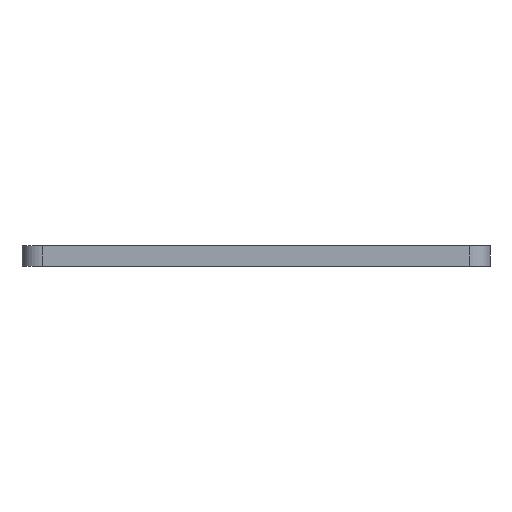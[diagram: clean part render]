
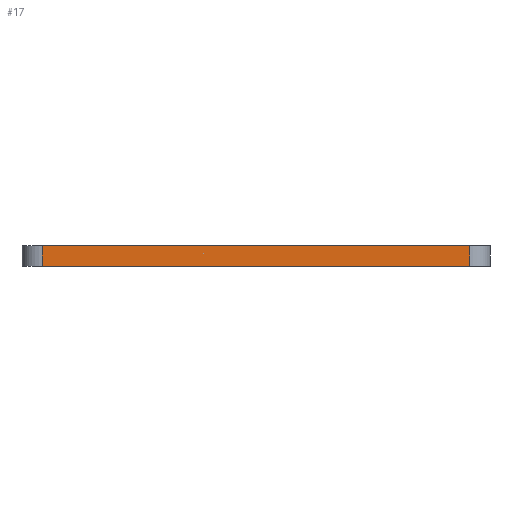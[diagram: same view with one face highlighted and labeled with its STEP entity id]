
A CAD part, front view. The second image highlights one B-rep face of the part: STEP entity #17.
In plain terms, the highlighted planar face has unit normal (0, -1, 0).
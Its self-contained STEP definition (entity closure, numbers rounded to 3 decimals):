
#17 = ADVANCED_FACE('',(#18),#32,.F.);
#18 = FACE_BOUND('',#19,.F.);
#19 = EDGE_LOOP('',(#20,#55,#83,#111));
#20 = ORIENTED_EDGE('',*,*,#21,.T.);
#21 = EDGE_CURVE('',#22,#24,#26,.T.);
#22 = VERTEX_POINT('',#23);
#23 = CARTESIAN_POINT('',(9.,34.,5.5));
#24 = VERTEX_POINT('',#25);
#25 = CARTESIAN_POINT('',(9.,34.,7.5));
#26 = SURFACE_CURVE('',#27,(#31,#43),.PCURVE_S1.);
#27 = LINE('',#28,#29);
#28 = CARTESIAN_POINT('',(9.,34.,5.5));
#29 = VECTOR('',#30,1.);
#30 = DIRECTION('',(0.,0.,1.));
#31 = PCURVE('',#32,#37);
#32 = PLANE('',#33);
#33 = AXIS2_PLACEMENT_3D('',#34,#35,#36);
#34 = CARTESIAN_POINT('',(9.,34.,5.5));
#35 = DIRECTION('',(0.,1.,0.));
#36 = DIRECTION('',(1.,0.,0.));
#37 = DEFINITIONAL_REPRESENTATION('',(#38),#42);
#38 = LINE('',#39,#40);
#39 = CARTESIAN_POINT('',(0.,0.));
#40 = VECTOR('',#41,1.);
#41 = DIRECTION('',(0.,-1.));
#42 = ( GEOMETRIC_REPRESENTATION_CONTEXT(2) 
PARAMETRIC_REPRESENTATION_CONTEXT() REPRESENTATION_CONTEXT('2D SPACE',''
  ) );
#43 = PCURVE('',#44,#49);
#44 = CYLINDRICAL_SURFACE('',#45,2.);
#45 = AXIS2_PLACEMENT_3D('',#46,#47,#48);
#46 = CARTESIAN_POINT('',(9.,36.,5.5));
#47 = DIRECTION('',(-0.,-0.,-1.));
#48 = DIRECTION('',(-1.,0.,0.));
#49 = DEFINITIONAL_REPRESENTATION('',(#50),#54);
#50 = LINE('',#51,#52);
#51 = CARTESIAN_POINT('',(-1.571,0.));
#52 = VECTOR('',#53,1.);
#53 = DIRECTION('',(-0.,-1.));
#54 = ( GEOMETRIC_REPRESENTATION_CONTEXT(2) 
PARAMETRIC_REPRESENTATION_CONTEXT() REPRESENTATION_CONTEXT('2D SPACE',''
  ) );
#55 = ORIENTED_EDGE('',*,*,#56,.T.);
#56 = EDGE_CURVE('',#24,#57,#59,.T.);
#57 = VERTEX_POINT('',#58);
#58 = CARTESIAN_POINT('',(51.,34.,7.5));
#59 = SURFACE_CURVE('',#60,(#64,#71),.PCURVE_S1.);
#60 = LINE('',#61,#62);
#61 = CARTESIAN_POINT('',(9.,34.,7.5));
#62 = VECTOR('',#63,1.);
#63 = DIRECTION('',(1.,0.,0.));
#64 = PCURVE('',#32,#65);
#65 = DEFINITIONAL_REPRESENTATION('',(#66),#70);
#66 = LINE('',#67,#68);
#67 = CARTESIAN_POINT('',(0.,-2.));
#68 = VECTOR('',#69,1.);
#69 = DIRECTION('',(1.,0.));
#70 = ( GEOMETRIC_REPRESENTATION_CONTEXT(2) 
PARAMETRIC_REPRESENTATION_CONTEXT() REPRESENTATION_CONTEXT('2D SPACE',''
  ) );
#71 = PCURVE('',#72,#77);
#72 = PLANE('',#73);
#73 = AXIS2_PLACEMENT_3D('',#74,#75,#76);
#74 = CARTESIAN_POINT('',(30.,62.,7.5));
#75 = DIRECTION('',(0.,0.,1.));
#76 = DIRECTION('',(1.,0.,-0.));
#77 = DEFINITIONAL_REPRESENTATION('',(#78),#82);
#78 = LINE('',#79,#80);
#79 = CARTESIAN_POINT('',(-21.,-28.));
#80 = VECTOR('',#81,1.);
#81 = DIRECTION('',(1.,0.));
#82 = ( GEOMETRIC_REPRESENTATION_CONTEXT(2) 
PARAMETRIC_REPRESENTATION_CONTEXT() REPRESENTATION_CONTEXT('2D SPACE',''
  ) );
#83 = ORIENTED_EDGE('',*,*,#84,.F.);
#84 = EDGE_CURVE('',#85,#57,#87,.T.);
#85 = VERTEX_POINT('',#86);
#86 = CARTESIAN_POINT('',(51.,34.,5.5));
#87 = SURFACE_CURVE('',#88,(#92,#99),.PCURVE_S1.);
#88 = LINE('',#89,#90);
#89 = CARTESIAN_POINT('',(51.,34.,5.5));
#90 = VECTOR('',#91,1.);
#91 = DIRECTION('',(0.,0.,1.));
#92 = PCURVE('',#32,#93);
#93 = DEFINITIONAL_REPRESENTATION('',(#94),#98);
#94 = LINE('',#95,#96);
#95 = CARTESIAN_POINT('',(42.,0.));
#96 = VECTOR('',#97,1.);
#97 = DIRECTION('',(0.,-1.));
#98 = ( GEOMETRIC_REPRESENTATION_CONTEXT(2) 
PARAMETRIC_REPRESENTATION_CONTEXT() REPRESENTATION_CONTEXT('2D SPACE',''
  ) );
#99 = PCURVE('',#100,#105);
#100 = CYLINDRICAL_SURFACE('',#101,2.);
#101 = AXIS2_PLACEMENT_3D('',#102,#103,#104);
#102 = CARTESIAN_POINT('',(51.,36.,5.5));
#103 = DIRECTION('',(-0.,-0.,-1.));
#104 = DIRECTION('',(0.,-1.,0.));
#105 = DEFINITIONAL_REPRESENTATION('',(#106),#110);
#106 = LINE('',#107,#108);
#107 = CARTESIAN_POINT('',(-0.,0.));
#108 = VECTOR('',#109,1.);
#109 = DIRECTION('',(-0.,-1.));
#110 = ( GEOMETRIC_REPRESENTATION_CONTEXT(2) 
PARAMETRIC_REPRESENTATION_CONTEXT() REPRESENTATION_CONTEXT('2D SPACE',''
  ) );
#111 = ORIENTED_EDGE('',*,*,#112,.F.);
#112 = EDGE_CURVE('',#22,#85,#113,.T.);
#113 = SURFACE_CURVE('',#114,(#118,#125),.PCURVE_S1.);
#114 = LINE('',#115,#116);
#115 = CARTESIAN_POINT('',(9.,34.,5.5));
#116 = VECTOR('',#117,1.);
#117 = DIRECTION('',(1.,0.,0.));
#118 = PCURVE('',#32,#119);
#119 = DEFINITIONAL_REPRESENTATION('',(#120),#124);
#120 = LINE('',#121,#122);
#121 = CARTESIAN_POINT('',(0.,0.));
#122 = VECTOR('',#123,1.);
#123 = DIRECTION('',(1.,0.));
#124 = ( GEOMETRIC_REPRESENTATION_CONTEXT(2) 
PARAMETRIC_REPRESENTATION_CONTEXT() REPRESENTATION_CONTEXT('2D SPACE',''
  ) );
#125 = PCURVE('',#126,#131);
#126 = PLANE('',#127);
#127 = AXIS2_PLACEMENT_3D('',#128,#129,#130);
#128 = CARTESIAN_POINT('',(30.,62.,5.5));
#129 = DIRECTION('',(0.,0.,1.));
#130 = DIRECTION('',(1.,0.,-0.));
#131 = DEFINITIONAL_REPRESENTATION('',(#132),#136);
#132 = LINE('',#133,#134);
#133 = CARTESIAN_POINT('',(-21.,-28.));
#134 = VECTOR('',#135,1.);
#135 = DIRECTION('',(1.,0.));
#136 = ( GEOMETRIC_REPRESENTATION_CONTEXT(2) 
PARAMETRIC_REPRESENTATION_CONTEXT() REPRESENTATION_CONTEXT('2D SPACE',''
  ) );
